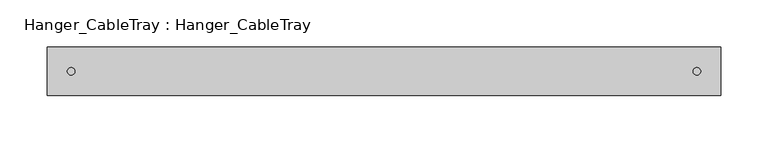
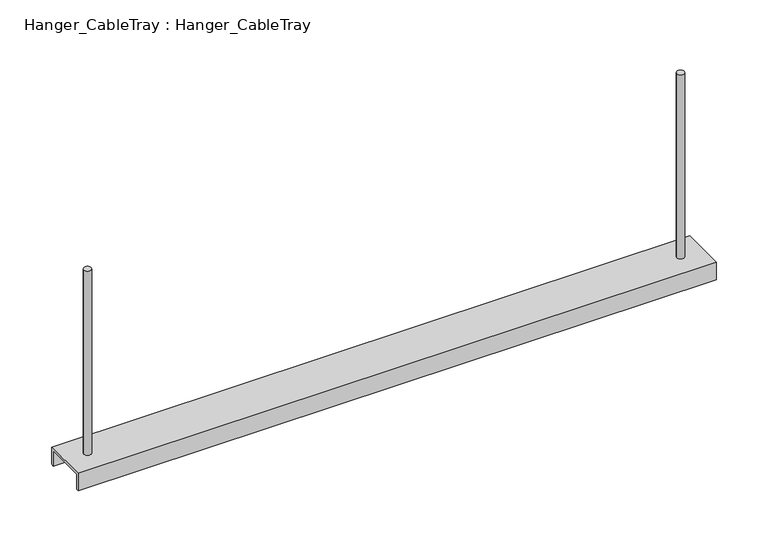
"""IFC4 building model written with IfcOpenShell, lengths in millimetres: cable carrier fitting geometry, Hanger_CableTray : Hanger_CableTray."""

from ifc_helpers import new_model, si_unit, frame, origin, place, context, project, spatial, circle_curve, source, transform, mapped, element, save
from ifc_brep_helpers import plane_surface, cylinder_surface, advanced_brep


def hanger_cabletray_hanger_cabletray_bdf1d66f(model_context):
    return source(origin(), model_context, "Body", "AdvancedBrep", [
        advanced_brep(
        [(-333.96875, 0.0, 25.0), (-326.03125, 0.0, 25.0), (-333.96875, 0.0, 262.0), (-326.03125, 0.0, 262.0), (-333.96875, 0.0, 45.3398437), (-326.03125, 0.0, 45.3398437), (-326.03125, 0.0, 42.7601562), (-333.96875, 0.0, 42.7601562), (355.0, -25.5, 45.3398437), (355.0, -25.5, 25.0), (355.0, -22.5, 25.0), (355.0, -22.5, 42.7601562), (355.0, 22.5, 42.7601562), (355.0, 22.5, 25.0), (355.0, 25.5, 25.0), (355.0, 25.5, 45.3398437), (-355.0, -25.5, 45.3398437), (-355.0, 25.5, 45.3398437), (-355.0, 25.5, 25.0), (-355.0, 22.5, 25.0), (-355.0, 22.5, 42.7601562), (-355.0, -22.5, 42.7601562), (-355.0, -22.5, 25.0), (-355.0, -25.5, 25.0), (333.96875, 0.0, 45.3398437), (326.03125, 0.0, 45.3398437), (326.03125, 0.0, 25.0), (333.96875, 0.0, 25.0), (326.03125, 0.0, 262.0), (333.96875, 0.0, 262.0), (333.96875, 0.0, 42.7601562), (326.03125, 0.0, 42.7601562)],
        [
            (0, 1, circle_curve(frame((-330.0, 0.0, 25.0), z_axis=(0.0, 0.0, -1.0), x_axis=(1.0, 0.0, 0.0)), 3.96875)),
            (1, 0, circle_curve(frame((-330.0, 0.0, 25.0), z_axis=(0.0, 0.0, -1.0), x_axis=(1.0, 0.0, 0.0)), 3.96875)),
            (2, 3, circle_curve(frame((-330.0, 0.0, 262.0), z_axis=(0.0, 0.0, 1.0), x_axis=(1.0, 0.0, 0.0)), 3.96875)),
            (3, 2, circle_curve(frame((-330.0, 0.0, 262.0), z_axis=(0.0, 0.0, 1.0), x_axis=(1.0, 0.0, 0.0)), 3.96875)),
            (2, 4),
            (4, 5, circle_curve(frame((-330.0, 0.0, 45.3398437), z_axis=(0.0, 0.0, 1.0), x_axis=(1.0, 0.0, 0.0)), 3.96875)),
            (5, 3),
            (1, 6),
            (6, 7, circle_curve(frame((-330.0, 0.0, 42.7601562), z_axis=(0.0, 0.0, -1.0), x_axis=(1.0, 0.0, 0.0)), 3.96875)),
            (7, 0),
            (5, 4, circle_curve(frame((-330.0, 0.0, 45.3398437), z_axis=(0.0, 0.0, 1.0), x_axis=(1.0, 0.0, 0.0)), 3.96875)),
            (7, 6, circle_curve(frame((-330.0, 0.0, 42.7601562), z_axis=(0.0, 0.0, -1.0), x_axis=(1.0, 0.0, 0.0)), 3.96875)),
            (8, 9),
            (9, 10),
            (10, 11),
            (11, 12),
            (12, 13),
            (13, 14),
            (14, 15),
            (15, 8),
            (16, 17),
            (17, 18),
            (18, 19),
            (19, 20),
            (20, 21),
            (21, 22),
            (22, 23),
            (23, 16),
            (8, 16),
            (23, 9),
            (13, 19),
            (18, 14),
            (17, 15),
            (24, 25, circle_curve(frame((330.0, 0.0, 45.3398437), z_axis=(0.0, 0.0, -1.0), x_axis=(1.0, 0.0, 0.0)), 3.96875)),
            (25, 24, circle_curve(frame((330.0, 0.0, 45.3398437), z_axis=(0.0, 0.0, -1.0), x_axis=(1.0, 0.0, 0.0)), 3.96875)),
            (26, 27, circle_curve(frame((330.0, 0.0, 25.0), z_axis=(0.0, 0.0, -1.0), x_axis=(1.0, 0.0, 0.0)), 3.96875)),
            (27, 26, circle_curve(frame((330.0, 0.0, 25.0), z_axis=(0.0, 0.0, -1.0), x_axis=(1.0, 0.0, 0.0)), 3.96875)),
            (28, 29, circle_curve(frame((330.0, 0.0, 262.0), z_axis=(0.0, 0.0, 1.0), x_axis=(1.0, 0.0, 0.0)), 3.96875)),
            (29, 28, circle_curve(frame((330.0, 0.0, 262.0), z_axis=(0.0, 0.0, 1.0), x_axis=(1.0, 0.0, 0.0)), 3.96875)),
            (28, 25),
            (24, 29),
            (27, 30),
            (30, 31, circle_curve(frame((330.0, 0.0, 42.7601562), z_axis=(0.0, 0.0, -1.0), x_axis=(1.0, 0.0, 0.0)), 3.96875)),
            (31, 26),
            (31, 30, circle_curve(frame((330.0, 0.0, 42.7601562), z_axis=(0.0, 0.0, -1.0), x_axis=(1.0, 0.0, 0.0)), 3.96875)),
            (22, 10),
            (21, 11),
            (20, 12),
        ],
        [
            plane_surface(frame((-326.03125, 0.0, 25.0), z_axis=(0.0, 0.0, -1.0), x_axis=(0.0, -1.0, 0.0))),
            plane_surface(frame((-326.03125, 0.0, 262.0), z_axis=(0.0, 0.0, 1.0), x_axis=(0.0, 1.0, 0.0))),
            cylinder_surface(frame((-330.0, 0.0, 25.0), z_axis=(0.0, 0.0, 1.0), x_axis=(1.0, 0.0, 0.0)), 3.96875),
            plane_surface(frame((355.0, -25.5, 45.3398437), z_axis=(1.0, 0.0, 0.0), x_axis=(0.0, 0.0, -1.0))),
            plane_surface(frame((-355.0, -25.5, 45.3398437), z_axis=(-1.0, 0.0, 0.0), x_axis=(0.0, 0.0, 1.0))),
            plane_surface(frame((355.0, -25.5, 45.3398437), z_axis=(0.0, -1.0, 0.0), x_axis=(-1.0, 0.0, 0.0))),
            plane_surface(frame((355.0, 22.5, 25.0), z_axis=(0.0, 0.0, -1.0), x_axis=(-1.0, 0.0, 0.0))),
            plane_surface(frame((355.0, 25.5, 25.0), z_axis=(0.0, 1.0, 0.0), x_axis=(-1.0, 0.0, 0.0))),
            plane_surface(frame((355.0, 25.5, 45.3398437), z_axis=(0.0, 0.0, 1.0), x_axis=(-1.0, 0.0, 0.0))),
            plane_surface(frame((333.96875, 0.0, 25.0), z_axis=(0.0, 0.0, -1.0), x_axis=(0.0, -1.0, 0.0))),
            plane_surface(frame((333.96875, 0.0, 262.0), z_axis=(0.0, 0.0, 1.0), x_axis=(0.0, 1.0, 0.0))),
            cylinder_surface(frame((330.0, 0.0, 25.0), z_axis=(0.0, 0.0, 1.0), x_axis=(1.0, 0.0, 0.0)), 3.96875),
            plane_surface(frame((355.0, -25.5, 25.0), z_axis=(0.0, 0.0, -1.0), x_axis=(-1.0, 0.0, 0.0))),
            plane_surface(frame((355.0, -22.5, 25.0), z_axis=(0.0, 1.0, 0.0), x_axis=(-1.0, 0.0, 0.0))),
            plane_surface(frame((355.0, -22.5, 42.7601562), z_axis=(0.0, 0.0, -1.0), x_axis=(-1.0, 0.0, 0.0))),
            plane_surface(frame((355.0, 22.5, 42.7601562), z_axis=(0.0, -1.0, 0.0), x_axis=(-1.0, 0.0, 0.0))),
        ],
        [
            (0, [[1, 2]]),
            (1, [[3, 4]]),
            (2, [[-3, 5, 6, 7]]),
            (2, [[-2, 8, 9, 10]]),
            (2, [[-4, -7, 11, -5]]),
            (2, [[-1, -10, 12, -8]]),
            (3, [[13, 14, 15, 16, 17, 18, 19, 20]]),
            (4, [[21, 22, 23, 24, 25, 26, 27, 28]]),
            (5, [[-13, 29, -28, 30]]),
            (6, [[-18, 31, -23, 32]]),
            (7, [[-19, -32, -22, 33]]),
            (8, [[-20, -33, -21, -29], [-6, -11], [34, 35]]),
            (9, [[36, 37]]),
            (10, [[38, 39]]),
            (11, [[-38, 40, -34, 41]]),
            (11, [[-37, 42, 43, 44]]),
            (11, [[-39, -41, -35, -40]]),
            (11, [[-36, -44, 45, -42]]),
            (12, [[-14, -30, -27, 46]]),
            (13, [[-15, -46, -26, 47]]),
            (14, [[-16, -47, -25, 48], [-9, -12], [-43, -45]]),
            (15, [[-17, -48, -24, -31]]),
        ],
    ),
    ])


if __name__ == "__main__":
    model = new_model("IFC4")
    model_context = context("Model", 3, world=origin())
    ifc_project = project(units=[si_unit("LENGTHUNIT", "METRE", prefix="MILLI")], contexts=[model_context])
    site = spatial("IfcSite", under=ifc_project)
    building = spatial("IfcBuilding", under=site)
    placement = place(None, origin())
    hanger_cabletray_hanger_cabletray_shape = hanger_cabletray_hanger_cabletray_bdf1d66f(model_context)
    element("IfcCableCarrierFitting", 1, ObjectType="Hanger_CableTray : Hanger_CableTray", at=placement, inside=building, context=model_context, shape_type="MappedRepresentation", body=[
        mapped(hanger_cabletray_hanger_cabletray_shape, transform((0.0, 0.0, 0.0), x_axis=(1.0, 0.0, 0.0), y_axis=(0.0, 1.0, 0.0), z_axis=(0.0, 0.0, 1.0))),
    ])
    save(model, "model.ifc")
